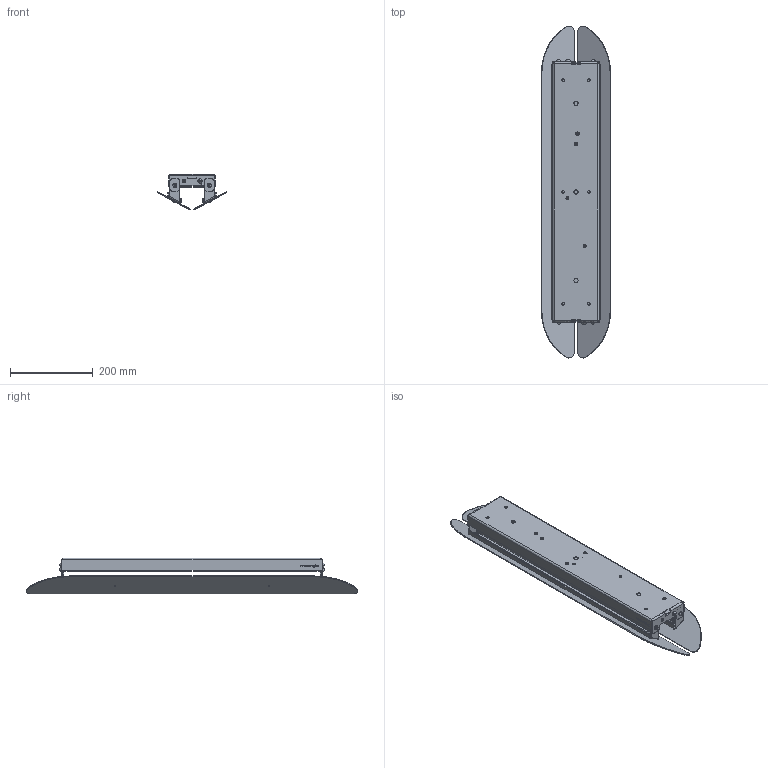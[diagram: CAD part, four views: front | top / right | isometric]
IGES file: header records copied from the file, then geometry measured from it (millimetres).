
Start section: SolidWorks IGES file using analytic representation for surfaces
Global section: file name: C:\VaultDeCastelli\Progetti\DC\PESO LEGGERO PRODOTTI\Ale\DeCastelli-3D-Aare 80.igs; native system: SolidWorks 2022; preprocessor: SolidWorks 2022; author: AlessandroP; date: 240726.104048; units: millimetre
Bounding box: 166.33 x 800.16 x 85.81 mm (x, y, z)
Surface area: 699741.8 mm2 (no closed solid volume)
Topology: 0 solids, 0 shells, 448 faces, 7787 edges, 7787 vertices
Faces by surface type: bspline 252, revolution 196
